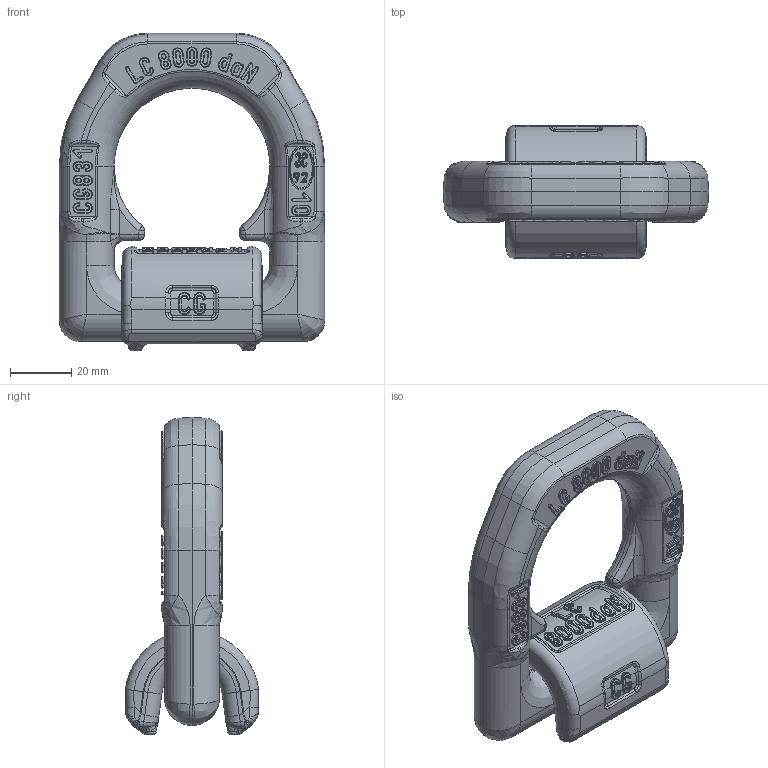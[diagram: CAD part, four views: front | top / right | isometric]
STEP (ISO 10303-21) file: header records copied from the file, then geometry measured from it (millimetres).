
FILE_DESCRIPTION(/* description */ (''),/* implementation_level */ '2;1');
FILE_NAME(/* name */ 'C831X08.stp',/* time_stamp */ '2013-06-05T16:13:04+02:00',/* author */ (''),/* organization */ (''),/* preprocessor_version */ 'ST-DEVELOPER v11',/* originating_system */ 'SIEMENS PLM Software NX 7.5',/* authorisation */ '');
FILE_SCHEMA (('CONFIG_CONTROL_DESIGN'));
Length unit declared in the file: millimetre
Products named in the file (1): ugii64F4wp6m
Bounding box: 87 x 43.59 x 104 mm (x, y, z)
Volume: 111168.5 mm3; surface area: 26842.2 mm2
Topology: 2 solids, 2 shells, 1751 faces, 4096 edges, 2404 vertices
Faces by surface type: cylinder 581, bspline 434, plane 427, torus 216, extrusion 57, sphere 20, cone 16
Entity records: 67948 total; most frequent: CARTESIAN_POINT 30193, ORIENTED_EDGE 8140, DIRECTION 7602, EDGE_CURVE 4070, AXIS2_PLACEMENT_3D 3019, VERTEX_POINT 2399, EDGE_LOOP 1829, ADVANCED_FACE 1751
